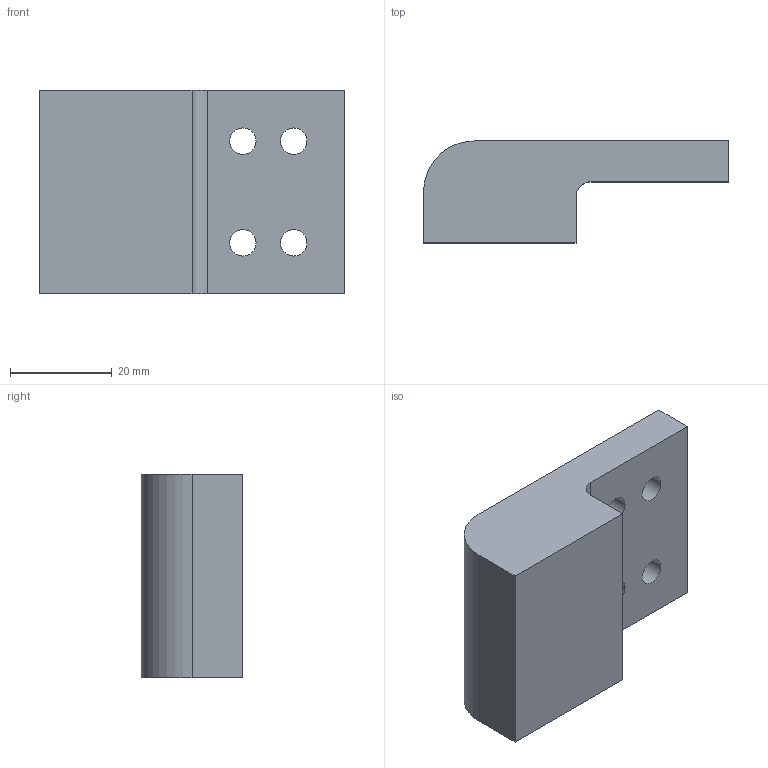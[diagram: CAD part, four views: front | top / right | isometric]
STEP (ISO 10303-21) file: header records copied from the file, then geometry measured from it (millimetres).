
FILE_DESCRIPTION(('CATIA V5 STEP Exchange'),'2;1');
FILE_NAME('D:\姚明阳\TAT0010041-TGB\TAT0010041-TGB.stp','2021-09-04T00:49:12+00:00',('none'),('none'),'CATIA Version 5 Release 21 GA (IN-10)','CATIA V5 STEP AP214','none');
FILE_SCHEMA(('AUTOMOTIVE_DESIGN { 1 0 10303 214 1 1 1 1 }'));
Length unit declared in the file: millimetre
Products named in the file (1): Part1
Bounding box: 60 x 20 x 40 mm (x, y, z)
Volume: 32139.3 mm3; surface area: 8170.6 mm2
Topology: 1 solids, 1 shells, 18 faces, 48 edges, 32 vertices
Faces by surface type: cylinder 10, plane 8
Entity records: 570 total; most frequent: ORIENTED_EDGE 96, CARTESIAN_POINT 95, DIRECTION 76, EDGE_CURVE 48, AXIS2_PLACEMENT_3D 35, VERTEX_POINT 32, VECTOR 28, LINE 28
